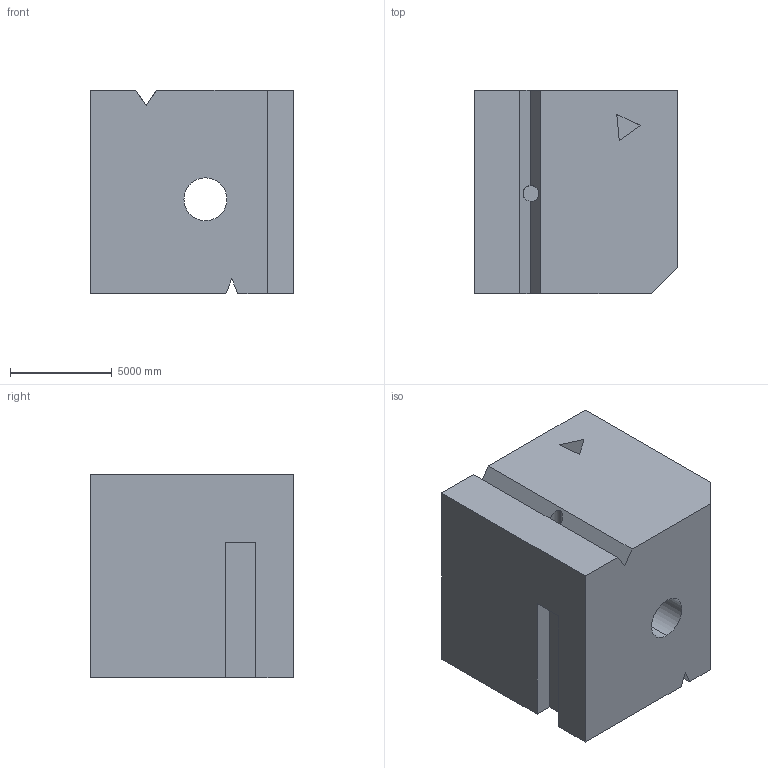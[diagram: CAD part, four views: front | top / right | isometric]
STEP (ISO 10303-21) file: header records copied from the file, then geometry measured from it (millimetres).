
FILE_DESCRIPTION (( 'STEP AP203' ), '1' );
FILE_NAME ('81.STEP', '2022-09-01T14:16:08', ( 'user' ), ( '' ), 'SwSTEP 2.0', 'SolidWorks 2021', '' );
FILE_SCHEMA (( 'CONFIG_CONTROL_DESIGN' ));
Length unit declared in the file: centimetre
Products named in the file (1): 81
Bounding box: 10000 x 10000 x 10000 mm (x, y, z)
Volume: 920179741229.7 mm3; surface area: 697717227.4 mm2
Topology: 1 solids, 1 shells, 32 faces, 84 edges, 56 vertices
Faces by surface type: plane 28, cylinder 4
Entity records: 1055 total; most frequent: CARTESIAN_POINT 185, ORIENTED_EDGE 168, DIRECTION 152, EDGE_CURVE 84, LINE 74, VECTOR 74, VERTEX_POINT 56, AXIS2_PLACEMENT_3D 39
